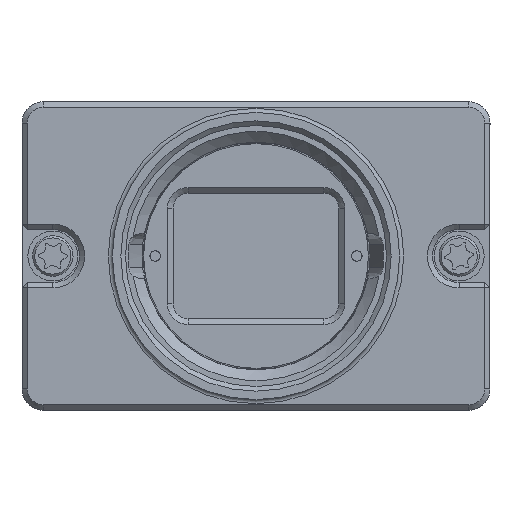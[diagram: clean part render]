
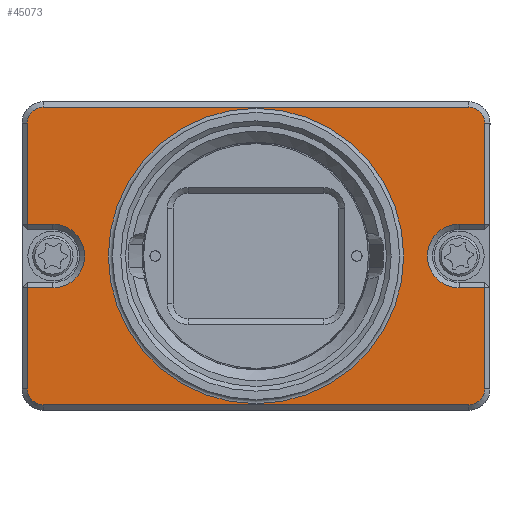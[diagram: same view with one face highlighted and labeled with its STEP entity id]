
A CAD part, front view. The second image highlights one B-rep face of the part: STEP entity #45073.
In plain terms, the highlighted planar face has unit normal (0, -1, 0).
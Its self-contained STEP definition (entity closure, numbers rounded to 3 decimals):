
#536=FACE_BOUND('',#6700,.T.);
#4178=FACE_OUTER_BOUND('',#6699,.T.);
#6699=EDGE_LOOP('',(#38968,#38969,#38970,#38971,#38972,#38973,#38974,#38975,
#38976,#38977,#38978,#38979,#38980,#38981,#38982,#38983));
#6700=EDGE_LOOP('',(#38984,#38985));
#11112=LINE('',#78723,#15550);
#11116=LINE('',#78732,#15554);
#11119=LINE('',#78740,#15557);
#11123=LINE('',#78747,#15561);
#11125=LINE('',#78754,#15563);
#11129=LINE('',#78762,#15567);
#11133=LINE('',#78771,#15571);
#11136=LINE('',#78778,#15574);
#11140=LINE('',#78786,#15578);
#11142=LINE('',#78792,#15580);
#15550=VECTOR('',#58292,10.);
#15554=VECTOR('',#58302,10.);
#15557=VECTOR('',#58311,10.);
#15561=VECTOR('',#58319,10.);
#15563=VECTOR('',#58327,10.);
#15567=VECTOR('',#58335,10.);
#15571=VECTOR('',#58345,10.);
#15574=VECTOR('',#58354,10.);
#15578=VECTOR('',#58364,10.);
#15580=VECTOR('',#58372,10.);
#16516=CIRCLE('',#48036,1.5);
#16517=CIRCLE('',#48039,1.5);
#16518=CIRCLE('',#48044,3.);
#16519=CIRCLE('',#48049,1.5);
#16520=CIRCLE('',#48052,1.5);
#16521=CIRCLE('',#48058,3.);
#16527=CIRCLE('',#48072,13.88);
#16528=CIRCLE('',#48073,13.88);
#20524=VERTEX_POINT('',#78720);
#20525=VERTEX_POINT('',#78722);
#20526=VERTEX_POINT('',#78726);
#20527=VERTEX_POINT('',#78730);
#20528=VERTEX_POINT('',#78734);
#20529=VERTEX_POINT('',#78738);
#20530=VERTEX_POINT('',#78744);
#20531=VERTEX_POINT('',#78749);
#20532=VERTEX_POINT('',#78753);
#20533=VERTEX_POINT('',#78759);
#20534=VERTEX_POINT('',#78761);
#20535=VERTEX_POINT('',#78765);
#20536=VERTEX_POINT('',#78769);
#20537=VERTEX_POINT('',#78773);
#20538=VERTEX_POINT('',#78783);
#20539=VERTEX_POINT('',#78788);
#20545=VERTEX_POINT('',#78814);
#20546=VERTEX_POINT('',#78815);
#26679=EDGE_CURVE('',#20524,#20525,#11112,.T.);
#26682=EDGE_CURVE('',#20526,#20524,#16516,.T.);
#26684=EDGE_CURVE('',#20527,#20526,#11116,.T.);
#26686=EDGE_CURVE('',#20528,#20527,#16517,.T.);
#26688=EDGE_CURVE('',#20529,#20528,#11119,.T.);
#26692=EDGE_CURVE('',#20525,#20530,#11123,.T.);
#26693=EDGE_CURVE('',#20530,#20531,#16518,.T.);
#26695=EDGE_CURVE('',#20531,#20532,#11125,.T.);
#26699=EDGE_CURVE('',#20533,#20534,#11129,.T.);
#26702=EDGE_CURVE('',#20535,#20533,#16519,.T.);
#26704=EDGE_CURVE('',#20536,#20535,#11133,.T.);
#26706=EDGE_CURVE('',#20537,#20536,#16520,.T.);
#26708=EDGE_CURVE('',#20532,#20537,#11136,.T.);
#26712=EDGE_CURVE('',#20534,#20538,#11140,.T.);
#26713=EDGE_CURVE('',#20538,#20539,#16521,.T.);
#26715=EDGE_CURVE('',#20539,#20529,#11142,.T.);
#26725=EDGE_CURVE('',#20545,#20546,#16527,.T.);
#26726=EDGE_CURVE('',#20546,#20545,#16528,.T.);
#38968=ORIENTED_EDGE('',*,*,#26708,.F.);
#38969=ORIENTED_EDGE('',*,*,#26695,.F.);
#38970=ORIENTED_EDGE('',*,*,#26693,.F.);
#38971=ORIENTED_EDGE('',*,*,#26692,.F.);
#38972=ORIENTED_EDGE('',*,*,#26679,.F.);
#38973=ORIENTED_EDGE('',*,*,#26682,.F.);
#38974=ORIENTED_EDGE('',*,*,#26684,.F.);
#38975=ORIENTED_EDGE('',*,*,#26686,.F.);
#38976=ORIENTED_EDGE('',*,*,#26688,.F.);
#38977=ORIENTED_EDGE('',*,*,#26715,.F.);
#38978=ORIENTED_EDGE('',*,*,#26713,.F.);
#38979=ORIENTED_EDGE('',*,*,#26712,.F.);
#38980=ORIENTED_EDGE('',*,*,#26699,.F.);
#38981=ORIENTED_EDGE('',*,*,#26702,.F.);
#38982=ORIENTED_EDGE('',*,*,#26704,.F.);
#38983=ORIENTED_EDGE('',*,*,#26706,.F.);
#38984=ORIENTED_EDGE('',*,*,#26725,.F.);
#38985=ORIENTED_EDGE('',*,*,#26726,.F.);
#40842=PLANE('',#48071);
#45073=ADVANCED_FACE('',(#4178,#536),#40842,.T.);
#48036=AXIS2_PLACEMENT_3D('',#78728,#58297,#58298);
#48039=AXIS2_PLACEMENT_3D('',#78736,#58306,#58307);
#48044=AXIS2_PLACEMENT_3D('',#78750,#58322,#58323);
#48049=AXIS2_PLACEMENT_3D('',#78767,#58340,#58341);
#48052=AXIS2_PLACEMENT_3D('',#78775,#58349,#58350);
#48058=AXIS2_PLACEMENT_3D('',#78789,#58367,#58368);
#48071=AXIS2_PLACEMENT_3D('',#78813,#58399,#58400);
#48072=AXIS2_PLACEMENT_3D('',#78816,#58401,#58402);
#48073=AXIS2_PLACEMENT_3D('',#78817,#58403,#58404);
#58292=DIRECTION('',(0.,0.,1.));
#58297=DIRECTION('center_axis',(0.,1.,0.));
#58298=DIRECTION('ref_axis',(-0.707,0.,-0.707));
#58302=DIRECTION('',(-1.,0.,0.));
#58306=DIRECTION('center_axis',(0.,1.,0.));
#58307=DIRECTION('ref_axis',(0.707,0.,-0.707));
#58311=DIRECTION('',(0.,0.,-1.));
#58319=DIRECTION('',(1.,0.,0.));
#58322=DIRECTION('center_axis',(0.,-1.,0.));
#58323=DIRECTION('ref_axis',(1.,0.,0.));
#58327=DIRECTION('',(-1.,0.,0.));
#58335=DIRECTION('',(0.,0.,-1.));
#58340=DIRECTION('center_axis',(0.,1.,0.));
#58341=DIRECTION('ref_axis',(0.707,0.,0.707));
#58345=DIRECTION('',(1.,0.,0.));
#58349=DIRECTION('center_axis',(0.,1.,0.));
#58350=DIRECTION('ref_axis',(-0.707,0.,0.707));
#58354=DIRECTION('',(0.,0.,1.));
#58364=DIRECTION('',(-1.,0.,0.));
#58367=DIRECTION('center_axis',(0.,-1.,0.));
#58368=DIRECTION('ref_axis',(-1.,0.,0.));
#58372=DIRECTION('',(1.,0.,0.));
#58399=DIRECTION('center_axis',(0.,-1.,0.));
#58400=DIRECTION('ref_axis',(-1.,0.,0.));
#58401=DIRECTION('center_axis',(0.,-1.,0.));
#58402=DIRECTION('ref_axis',(1.,0.,0.));
#58403=DIRECTION('center_axis',(0.,-1.,0.));
#58404=DIRECTION('ref_axis',(1.,0.,0.));
#78720=CARTESIAN_POINT('',(-21.5,-9.126,-12.5));
#78722=CARTESIAN_POINT('',(-21.5,-9.126,-3.));
#78723=CARTESIAN_POINT('',(-21.5,-9.126,-7.25));
#78726=CARTESIAN_POINT('',(-20.,-9.126,-14.));
#78728=CARTESIAN_POINT('Origin',(-20.,-9.126,-12.5));
#78730=CARTESIAN_POINT('',(20.,-9.126,-14.));
#78732=CARTESIAN_POINT('',(20.55,-9.126,-14.));
#78734=CARTESIAN_POINT('',(21.5,-9.126,-12.5));
#78736=CARTESIAN_POINT('Origin',(20.,-9.126,-12.5));
#78738=CARTESIAN_POINT('',(21.5,-9.126,-3.));
#78740=CARTESIAN_POINT('',(21.5,-9.126,7.25));
#78744=CARTESIAN_POINT('',(-19.1,-9.126,-3.));
#78747=CARTESIAN_POINT('',(0.,-9.126,-3.));
#78749=CARTESIAN_POINT('',(-19.1,-9.126,3.));
#78750=CARTESIAN_POINT('Origin',(-19.1,-9.126,0.));
#78753=CARTESIAN_POINT('',(-21.5,-9.126,3.));
#78754=CARTESIAN_POINT('',(-1.45,-9.126,3.));
#78759=CARTESIAN_POINT('',(21.5,-9.126,12.5));
#78761=CARTESIAN_POINT('',(21.5,-9.126,3.));
#78762=CARTESIAN_POINT('',(21.5,-9.126,7.25));
#78765=CARTESIAN_POINT('',(20.,-9.126,14.));
#78767=CARTESIAN_POINT('Origin',(20.,-9.126,12.5));
#78769=CARTESIAN_POINT('',(-20.,-9.126,14.));
#78771=CARTESIAN_POINT('',(-1.45,-9.126,14.));
#78773=CARTESIAN_POINT('',(-21.5,-9.126,12.5));
#78775=CARTESIAN_POINT('Origin',(-20.,-9.126,12.5));
#78778=CARTESIAN_POINT('',(-21.5,-9.126,-7.25));
#78783=CARTESIAN_POINT('',(19.1,-9.126,3.));
#78786=CARTESIAN_POINT('',(19.1,-9.126,3.));
#78788=CARTESIAN_POINT('',(19.1,-9.126,-3.));
#78789=CARTESIAN_POINT('Origin',(19.1,-9.126,0.));
#78792=CARTESIAN_POINT('',(20.55,-9.126,-3.));
#78813=CARTESIAN_POINT('Origin',(19.1,-9.126,0.));
#78814=CARTESIAN_POINT('',(-13.88,-9.126,0.));
#78815=CARTESIAN_POINT('',(0.,-9.126,13.88));
#78816=CARTESIAN_POINT('Origin',(0.,-9.126,
0.));
#78817=CARTESIAN_POINT('Origin',(0.,-9.126,
0.));
